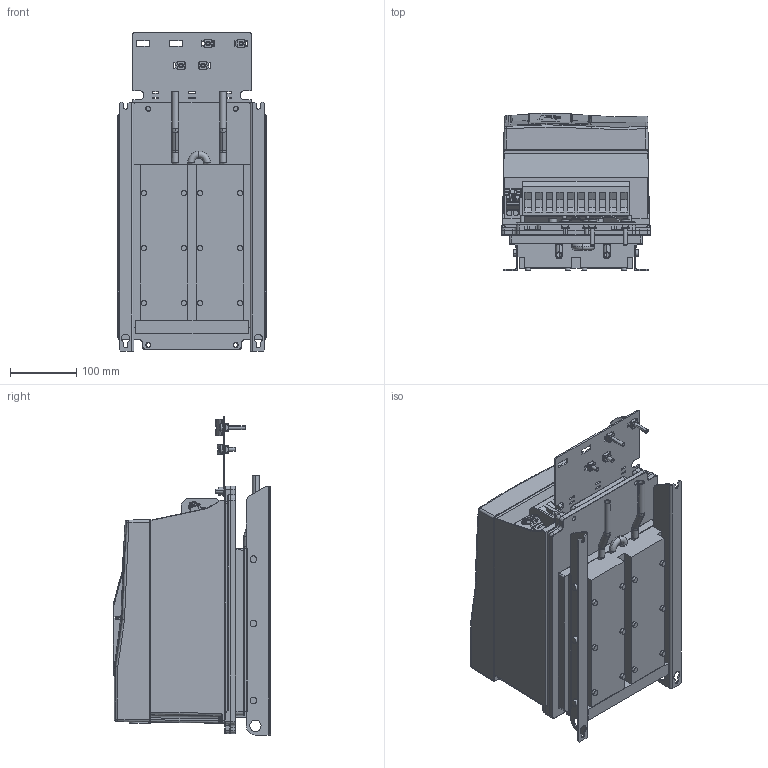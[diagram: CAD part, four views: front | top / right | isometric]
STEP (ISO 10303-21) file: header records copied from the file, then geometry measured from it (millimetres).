
FILE_DESCRIPTION (( 'STEP AP214' ), '1' );
FILE_NAME ('F6-4TW0-A011.STEP', '2020-12-09T12:39:34', ( '' ), ( '' ), 'SwSTEP 2.0', 'SolidWorks 2019', '' );
FILE_SCHEMA (( 'AUTOMOTIVE_DESIGN' ));
Length unit declared in the file: millimetre
Products named in the file (14): F6-4TW0-A011; 10032600_000_Kundenmodell; 10061791_000; 10061644_000_Deckel (Kundenmodell); 10044643_000_Kundenmodell; 10001537_000; 10058448_000; 10059761_000; 10063070_000; 10045828_000_Basis Leistungsteil + Zubeh”r TW0 (Kundenmodell); 10059765_000; 10044453_000_Schirmung (Kundenmodell); 10061645_000; 10059764_000_Blindabdeckung (Kundenmodell)
Assembly tree (15 placements, depth 4):
  F6-4TW0-A011
    10045828_000_Basis Leistungsteil + Zubeh”r TW0 (Kundenmodell)
      10061791_000
    10032600_000_Kundenmodell
      10061644_000_Deckel (Kundenmodell)
        10061645_000
      10001537_000  x3
      10058448_000
    10044643_000_Kundenmodell
      10059764_000_Blindabdeckung (Kundenmodell)
        10059765_000
      10059761_000
    10044453_000_Schirmung (Kundenmodell)
      10063070_000
Bounding box: 224 x 237.2 x 479.7 mm (x, y, z)
Volume: 14703247.4 mm3; surface area: 957356.8 mm2
Topology: 18 solids, 38 shells, 3653 faces, 9748 edges, 6222 vertices
Faces by surface type: plane 1675, cylinder 1027, bspline 569, torus 190, cone 136, sphere 56
Entity records: 135591 total; most frequent: CARTESIAN_POINT 49189, ORIENTED_EDGE 19006, DIRECTION 16375, EDGE_CURVE 9503, VERTEX_POINT 6104, AXIS2_PLACEMENT_3D 5522, VECTOR 5331, LINE 5331
